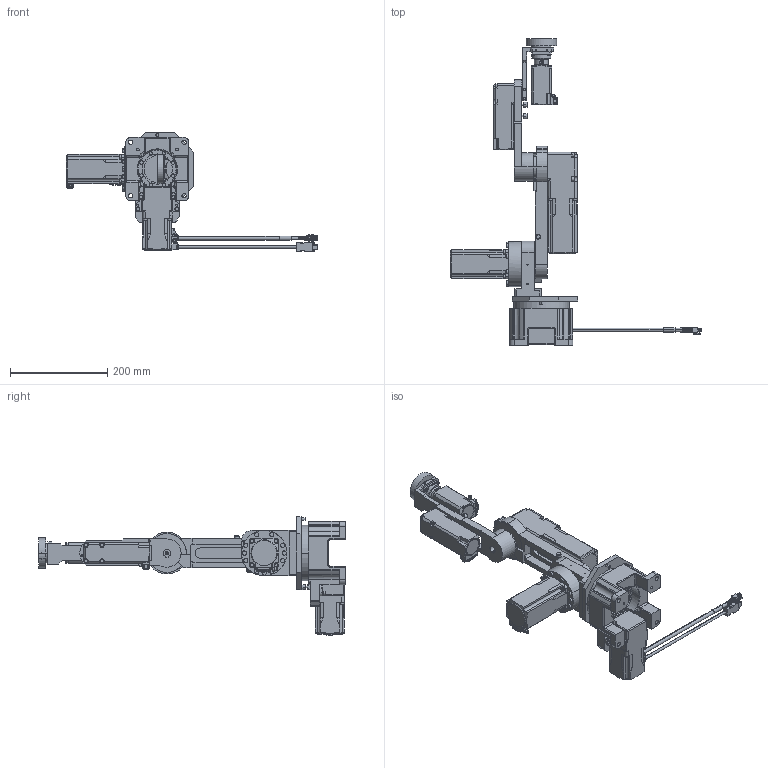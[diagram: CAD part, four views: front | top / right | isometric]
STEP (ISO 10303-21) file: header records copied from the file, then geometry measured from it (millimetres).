
FILE_DESCRIPTION (( 'STEP AP203' ), '1' );
FILE_NAME ('OVR5035K1-V.STEP', '2024-05-24T04:38:12', ( '' ), ( '' ), 'SwSTEP 2.0', 'SolidWorks 2023', '' );
FILE_SCHEMA (( 'CONFIG_CONTROL_DESIGN' ));
Products named in the file (1): OVR5035K1-V
Bounding box: 517.5 x 631 x 244.4 mm (x, y, z)
Volume: 3868372.6 mm3; surface area: 475422.4 mm2
Topology: 1 solids, 60 shells, 2812 faces, 7038 edges, 4513 vertices
Faces by surface type: plane 1529, cylinder 1017, cone 120, torus 103, bspline 27, sphere 16
Entity records: 88338 total; most frequent: CARTESIAN_POINT 19790, DIRECTION 14607, ORIENTED_EDGE 13932, EDGE_CURVE 6966, AXIS2_PLACEMENT_3D 5094, VERTEX_POINT 4513, LINE 4419, VECTOR 4419
